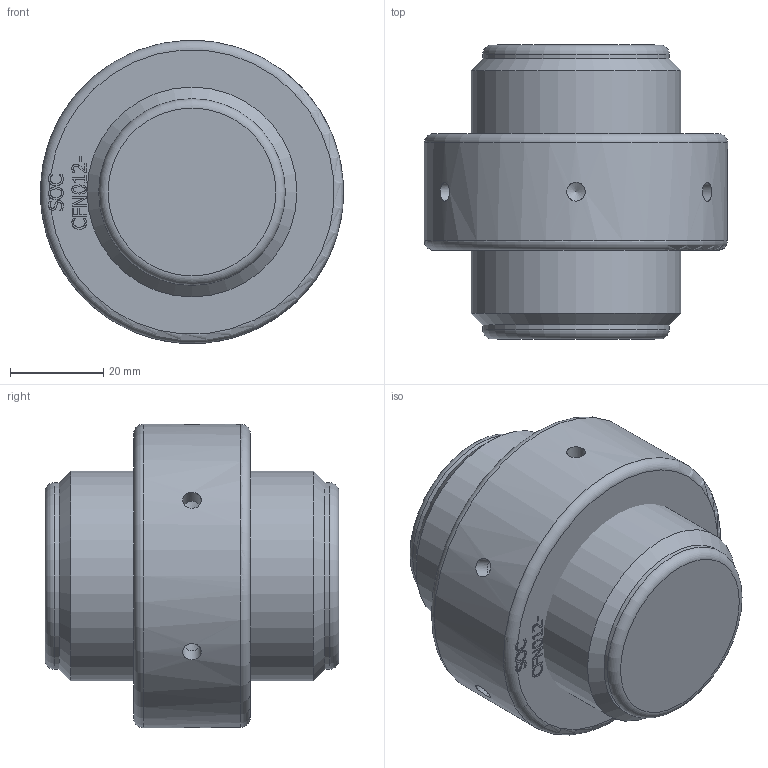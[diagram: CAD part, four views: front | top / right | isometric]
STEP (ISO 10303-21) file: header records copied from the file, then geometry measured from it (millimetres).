
FILE_DESCRIPTION(/* description */ (''),/* implementation_level */ '2;1');
FILE_NAME(/* name */ 'F:\Clienti LS\Redaelli\CYT\CYT\ARRNGEMENT\CYT012-61-061-0.stp',/* time_stamp */ '2021-05-08T11:16:25+02:00',/* author */ ('ranca'),/* organization */ (''),/* preprocessor_version */ 'ST-DEVELOPER v16.13',/* originating_system */ 'Autodesk Inventor 2018',/* authorisation */ '');
FILE_SCHEMA (('AUTOMOTIVE_DESIGN { 1 0 10303 214 3 1 1 }'));
Length unit declared in the file: millimetre
Products named in the file (3): CYT012-61-061-0; CYT012-61-061-0_1; CYT012-61-061-0_DADO
Assembly tree (2 placements, depth 2):
  CYT012-61-061-0
    CYT012-61-061-0_1
    CYT012-61-061-0_DADO
Bounding box: 65 x 63 x 65 mm (x, y, z)
Volume: 145183.1 mm3; surface area: 23596.8 mm2
Topology: 2 solids, 2 shells, 330 faces, 914 edges, 609 vertices
Faces by surface type: bspline 172, plane 133, cylinder 11, cone 8, torus 6
Full cylindrical faces by diameter (mm): 4 x6, 40 x2, 41.752 x1, 45 x1, 65 x1
Entity records: 11493 total; most frequent: CARTESIAN_POINT 4336, ORIENTED_EDGE 1754, EDGE_CURVE 877, DIRECTION 869, VERTEX_POINT 595, LINE 487, VECTOR 487, EDGE_LOOP 376
